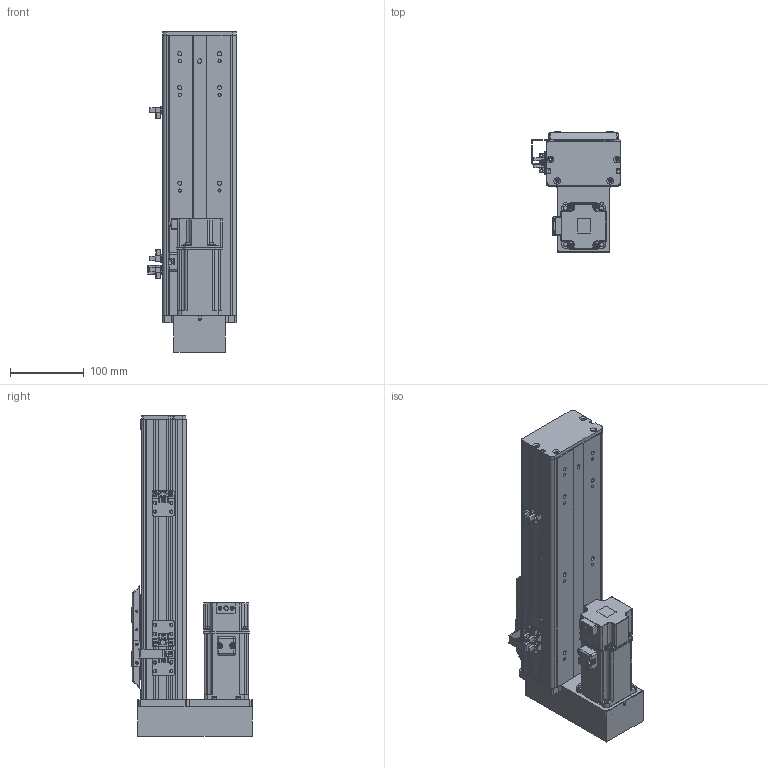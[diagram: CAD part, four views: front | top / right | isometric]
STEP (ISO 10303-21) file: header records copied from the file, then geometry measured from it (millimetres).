
FILE_DESCRIPTION (( 'STEP AP203' ), '1' );
FILE_NAME ('BOSW100-200-1610-1P-DM-M400W-O-S3（方程式2016）.step', '2020-10-10T06:40:13', ( '' ), ( '' ), 'SwSTEP 2.0', 'SolidWorks 2016', '' );
FILE_SCHEMA (( 'CONFIG_CONTROL_DESIGN' ));
Length unit declared in the file: millimetre
Products named in the file (14): BOSW100-200-1610-1P-DM-M400W-O-S3（方程式2016）; BOS-100-DM鎮湛假蚾啣; BOSW&TW-100-俋离覜茼え; BOSW-100-1P-DM-200諦誧芞; BOSW-100-1P-DM-宽轨-钢带-200客户图纸; 俋境嫖覜嘐隅啣; BOS100-DM鎮湛欶; BOSW-100-1P-DM-宽轨-侧板-200客户图纸; BOSW-100-綴裔啣; BOSW&TW-100-1P-賑雄釱欶; 放大器内置U型微型光电传感器PM-L65; S400W(SMA-L040); BOSW&TW-100-詩湍揤沭(陔賦凳); 新结构AIMSW-100-1P-宽&高轨共用-滑动座上组件
Assembly tree (19 placements, depth 2):
  BOSW100-200-1610-1P-DM-M400W-O-S3（方程式2016）
    BOSW-100-1P-DM-200諦誧芞
    BOSW-100-綴裔啣
    新结构AIMSW-100-1P-宽&高轨共用-滑动座上组件
    S400W(SMA-L040)
    BOSW&TW-100-詩湍揤沭(陔賦凳)  x2
    BOSW&TW-100-1P-賑雄釱欶
    BOSW&TW-100-俋离覜茼え
    俋境嫖覜嘐隅啣  x3
    放大器内置U型微型光电传感器PM-L65  x3
    BOSW-100-1P-DM-宽轨-侧板-200客户图纸  x2
    BOSW-100-1P-DM-宽轨-钢带-200客户图纸
    BOS100-DM鎮湛欶
    BOS-100-DM鎮湛假蚾啣
Bounding box: 120.9 x 164 x 436 mm (x, y, z)
Volume: 1151625.8 mm3; surface area: 571807.2 mm2
Topology: 19 solids, 19 shells, 2512 faces, 6614 edges, 4225 vertices
Faces by surface type: plane 1261, cylinder 775, bspline 271, cone 157, torus 36, sphere 12
Entity records: 68691 total; most frequent: CARTESIAN_POINT 20644, ORIENTED_EDGE 9784, DIRECTION 9448, EDGE_CURVE 4892, AXIS2_PLACEMENT_3D 3324, VERTEX_POINT 3127, LINE 2800, VECTOR 2800
